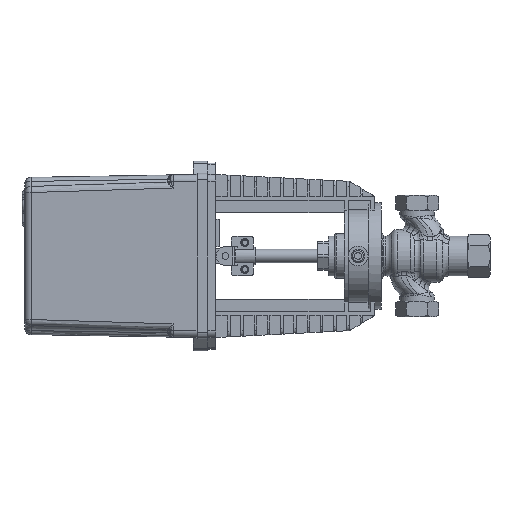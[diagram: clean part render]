
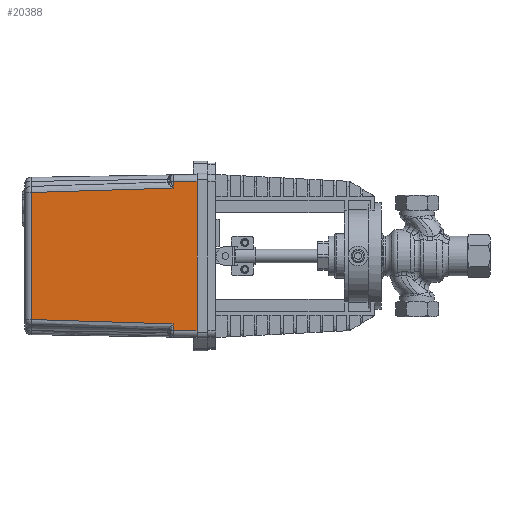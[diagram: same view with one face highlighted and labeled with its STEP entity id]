
A CAD part, left-side view. The second image highlights one B-rep face of the part: STEP entity #20388.
In plain terms, the highlighted planar face has unit normal (-1, 0.018, 0).
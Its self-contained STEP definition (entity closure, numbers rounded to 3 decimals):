
#801=PLANE('',#21879);
#2136=LINE('',#36286,#3796);
#2143=LINE('',#37211,#3803);
#2211=LINE('',#37489,#3871);
#2264=LINE('',#37794,#3924);
#2265=LINE('',#38001,#3925);
#2266=LINE('',#38002,#3926);
#3796=VECTOR('',#25166,10.);
#3803=VECTOR('',#25273,10.);
#3871=VECTOR('',#25483,10.);
#3924=VECTOR('',#25598,10.);
#3925=VECTOR('',#25649,10.);
#3926=VECTOR('',#25650,10.);
#5408=FACE_OUTER_BOUND('',#6538,.T.);
#6538=EDGE_LOOP('',(#16688,#16689,#16690,#16691,#16692,#16693,#16694,#16695,
#16696,#16697));
#7917=B_SPLINE_CURVE_WITH_KNOTS('',3,(#37770,#37771,#37772,#37773),
 .UNSPECIFIED.,.F.,.F.,(4,4),(11.498,11.695),
 .UNSPECIFIED.);
#7918=B_SPLINE_CURVE_WITH_KNOTS('',3,(#37774,#37775,#37776,#37777),
 .UNSPECIFIED.,.F.,.F.,(4,4),(-11.498,-0.983),
 .UNSPECIFIED.);
#7921=B_SPLINE_CURVE_WITH_KNOTS('',3,(#37820,#37821,#37822,#37823),
 .UNSPECIFIED.,.F.,.F.,(4,4),(-13.025,-2.51),
 .UNSPECIFIED.);
#7922=B_SPLINE_CURVE_WITH_KNOTS('',3,(#37824,#37825,#37826,#37827),
 .UNSPECIFIED.,.F.,.F.,(4,4),(2.314,2.51),
 .UNSPECIFIED.);
#9304=VERTEX_POINT('',#36071);
#9316=VERTEX_POINT('',#36284);
#9362=VERTEX_POINT('',#37124);
#9365=VERTEX_POINT('',#37207);
#9460=VERTEX_POINT('',#37488);
#9537=VERTEX_POINT('',#37746);
#9538=VERTEX_POINT('',#37769);
#9541=VERTEX_POINT('',#37790);
#9542=VERTEX_POINT('',#37819);
#9546=VERTEX_POINT('',#38000);
#11796=EDGE_CURVE('',#9316,#9304,#2136,.T.);
#11878=EDGE_CURVE('',#9362,#9365,#2143,.T.);
#11996=EDGE_CURVE('',#9365,#9460,#2211,.T.);
#12089=EDGE_CURVE('',#9538,#9304,#7917,.T.);
#12090=EDGE_CURVE('',#9538,#9537,#7918,.T.);
#12098=EDGE_CURVE('',#9537,#9541,#2264,.T.);
#12100=EDGE_CURVE('',#9541,#9542,#7921,.T.);
#12101=EDGE_CURVE('',#9362,#9542,#7922,.T.);
#12121=EDGE_CURVE('',#9546,#9316,#2265,.T.);
#12122=EDGE_CURVE('',#9460,#9546,#2266,.T.);
#16688=ORIENTED_EDGE('',*,*,#11796,.F.);
#16689=ORIENTED_EDGE('',*,*,#12121,.F.);
#16690=ORIENTED_EDGE('',*,*,#12122,.F.);
#16691=ORIENTED_EDGE('',*,*,#11996,.F.);
#16692=ORIENTED_EDGE('',*,*,#11878,.F.);
#16693=ORIENTED_EDGE('',*,*,#12101,.T.);
#16694=ORIENTED_EDGE('',*,*,#12100,.F.);
#16695=ORIENTED_EDGE('',*,*,#12098,.F.);
#16696=ORIENTED_EDGE('',*,*,#12090,.F.);
#16697=ORIENTED_EDGE('',*,*,#12089,.T.);
#20388=ADVANCED_FACE('',(#5408),#801,.T.);
#21879=AXIS2_PLACEMENT_3D('',#37999,#25647,#25648);
#25166=DIRECTION('',(0.,0.,1.));
#25273=DIRECTION('',(0.,0.,1.));
#25483=DIRECTION('',(-0.017,-1.,0.017));
#25598=DIRECTION('',(0.,0.,1.));
#25647=DIRECTION('center_axis',(-1.,0.017,0.));
#25648=DIRECTION('ref_axis',(0.,0.,
1.));
#25649=DIRECTION('',(0.017,1.,0.017));
#25650=DIRECTION('',(0.,0.,-1.));
#36071=CARTESIAN_POINT('',(-61.185,184.035,-51.199));
#36284=CARTESIAN_POINT('',(-61.185,184.035,-56.186));
#36286=CARTESIAN_POINT('',(-61.185,184.035,1.135));
#37124=CARTESIAN_POINT('',(-61.185,184.035,51.199));
#37207=CARTESIAN_POINT('',(-61.185,184.035,56.186));
#37211=CARTESIAN_POINT('',(-61.185,184.035,60.365));
#37488=CARTESIAN_POINT('',(-61.5,166.,56.501));
#37489=CARTESIAN_POINT('',(-61.483,166.986,56.484));
#37746=CARTESIAN_POINT('',(-59.317,291.087,-47.924));
#37769=CARTESIAN_POINT('',(-61.151,186.,-51.138));
#37770=CARTESIAN_POINT('Ctrl Pts',(-61.151,186.,-51.138));
#37771=CARTESIAN_POINT('Ctrl Pts',(-61.162,185.345,-51.158));
#37772=CARTESIAN_POINT('Ctrl Pts',(-61.174,184.69,-51.178));
#37773=CARTESIAN_POINT('Ctrl Pts',(-61.185,184.035,-51.199));
#37774=CARTESIAN_POINT('Ctrl Pts',(-61.151,186.,-51.138));
#37775=CARTESIAN_POINT('Ctrl Pts',(-60.539,221.029,-50.062));
#37776=CARTESIAN_POINT('Ctrl Pts',(-59.928,256.058,-48.992));
#37777=CARTESIAN_POINT('Ctrl Pts',(-59.317,291.087,-47.924));
#37790=CARTESIAN_POINT('',(-59.317,291.087,47.924));
#37794=CARTESIAN_POINT('',(-59.317,291.087,30.75));
#37819=CARTESIAN_POINT('',(-61.151,186.,51.138));
#37820=CARTESIAN_POINT('Ctrl Pts',(-59.317,291.087,47.924));
#37821=CARTESIAN_POINT('Ctrl Pts',(-59.928,256.058,48.992));
#37822=CARTESIAN_POINT('Ctrl Pts',(-60.539,221.029,50.062));
#37823=CARTESIAN_POINT('Ctrl Pts',(-61.151,186.,51.138));
#37824=CARTESIAN_POINT('Ctrl Pts',(-61.185,184.035,51.199));
#37825=CARTESIAN_POINT('Ctrl Pts',(-61.174,184.69,51.178));
#37826=CARTESIAN_POINT('Ctrl Pts',(-61.162,185.345,51.158));
#37827=CARTESIAN_POINT('Ctrl Pts',(-61.151,186.,51.138));
#37999=CARTESIAN_POINT('Origin',(-61.5,166.,61.5));
#38000=CARTESIAN_POINT('',(-61.5,166.,-56.501));
#38001=CARTESIAN_POINT('',(-61.483,166.986,-56.484));
#38002=CARTESIAN_POINT('',(-61.5,166.,30.75));
